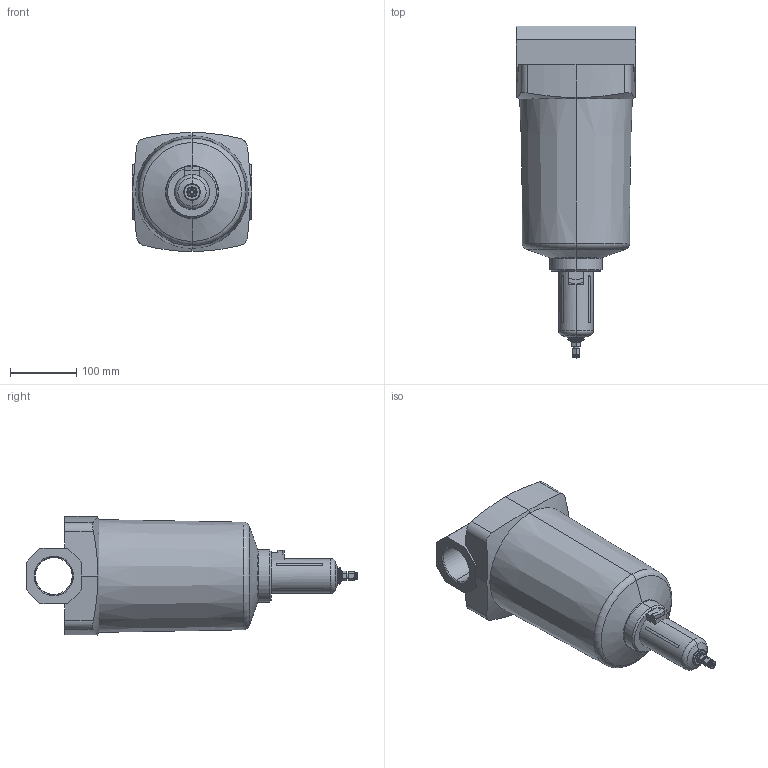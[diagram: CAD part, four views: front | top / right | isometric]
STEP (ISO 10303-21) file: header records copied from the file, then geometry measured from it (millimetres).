
FILE_DESCRIPTION (( 'STEP AP203' ), '1' );
FILE_NAME ('FSO850-20D.STEP', '2021-09-22T11:29:43', ( '' ), ( '' ), 'SwSTEP 2.0', 'SolidWorks 2019', '' );
FILE_SCHEMA (( 'CONFIG_CONTROL_DESIGN' ));
Length unit declared in the file: millimetre
Products named in the file (1): FSO850-20D
Bounding box: 180 x 502.1 x 180 mm (x, y, z)
Volume: 7254552.3 mm3; surface area: 287971.1 mm2
Topology: 1 solids, 1 shells, 340 faces, 762 edges, 451 vertices
Faces by surface type: cylinder 134, cone 104, plane 94, torus 8
Entity records: 12217 total; most frequent: CARTESIAN_POINT 4666, DIRECTION 1597, ORIENTED_EDGE 1524, EDGE_CURVE 762, AXIS2_PLACEMENT_3D 639, VERTEX_POINT 451, EDGE_LOOP 369, ADVANCED_FACE 340
